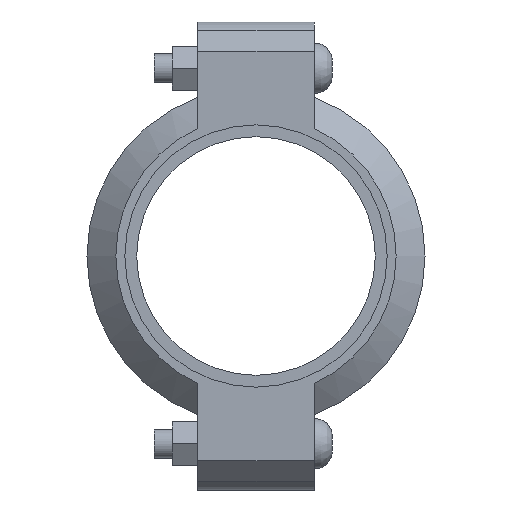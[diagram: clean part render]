
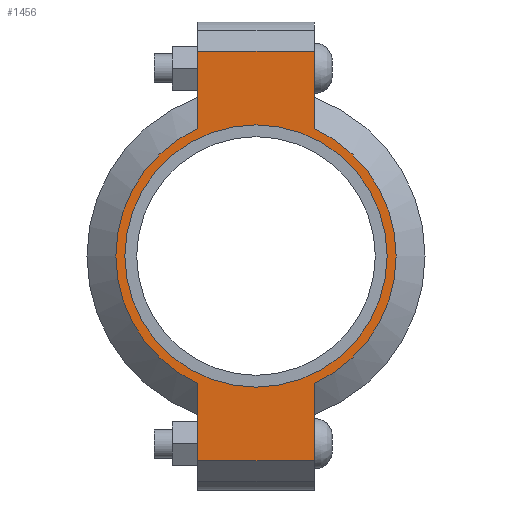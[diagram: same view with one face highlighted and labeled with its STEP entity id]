
A CAD part, left-side view. The second image highlights one B-rep face of the part: STEP entity #1456.
In plain terms, the highlighted planar face has unit normal (-1, 0, 0) as drawn and (0, 0, 1) by its records, which use the part's own axes.
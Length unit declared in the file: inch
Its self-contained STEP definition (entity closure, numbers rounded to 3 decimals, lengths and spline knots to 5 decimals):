
#136=LINE('',#2507,#227);
#144=LINE('',#2543,#235);
#151=LINE('',#2564,#242);
#160=LINE('',#2596,#251);
#161=LINE('',#2600,#252);
#162=LINE('',#2602,#253);
#227=VECTOR('',#2029,0.3937);
#235=VECTOR('',#2045,0.3937);
#242=VECTOR('',#2064,0.3937);
#251=VECTOR('',#2089,0.3937);
#252=VECTOR('',#2094,0.3937);
#253=VECTOR('',#2095,0.3937);
#305=FACE_BOUND('',#465,.T.);
#369=FACE_OUTER_BOUND('',#464,.T.);
#464=EDGE_LOOP('',(#1191,#1192,#1193,#1194,#1195,#1196,#1197,#1198));
#465=EDGE_LOOP('',(#1199));
#562=CIRCLE('',#1699,2.405);
#563=CIRCLE('',#1700,2.405);
#564=CIRCLE('',#1701,2.25);
#667=VERTEX_POINT('',#2504);
#668=VERTEX_POINT('',#2506);
#679=VERTEX_POINT('',#2538);
#680=VERTEX_POINT('',#2542);
#687=VERTEX_POINT('',#2561);
#688=VERTEX_POINT('',#2563);
#698=VERTEX_POINT('',#2599);
#699=VERTEX_POINT('',#2601);
#700=VERTEX_POINT('',#2604);
#831=EDGE_CURVE('',#668,#667,#136,.T.);
#845=EDGE_CURVE('',#680,#679,#144,.T.);
#855=EDGE_CURVE('',#688,#687,#151,.T.);
#870=EDGE_CURVE('',#680,#667,#160,.T.);
#871=EDGE_CURVE('',#679,#688,#562,.T.);
#872=EDGE_CURVE('',#698,#687,#161,.T.);
#873=EDGE_CURVE('',#698,#699,#162,.T.);
#874=EDGE_CURVE('',#699,#668,#563,.T.);
#875=EDGE_CURVE('',#700,#700,#564,.T.);
#1191=ORIENTED_EDGE('',*,*,#870,.F.);
#1192=ORIENTED_EDGE('',*,*,#845,.T.);
#1193=ORIENTED_EDGE('',*,*,#871,.T.);
#1194=ORIENTED_EDGE('',*,*,#855,.T.);
#1195=ORIENTED_EDGE('',*,*,#872,.F.);
#1196=ORIENTED_EDGE('',*,*,#873,.T.);
#1197=ORIENTED_EDGE('',*,*,#874,.T.);
#1198=ORIENTED_EDGE('',*,*,#831,.T.);
#1199=ORIENTED_EDGE('',*,*,#875,.T.);
#1310=PLANE('',#1698);
#1456=ADVANCED_FACE('',(#369,#305),#1310,.T.);
#1698=AXIS2_PLACEMENT_3D('',#2597,#2090,#2091);
#1699=AXIS2_PLACEMENT_3D('',#2598,#2092,#2093);
#1700=AXIS2_PLACEMENT_3D('',#2603,#2096,#2097);
#1701=AXIS2_PLACEMENT_3D('',#2605,#2098,#2099);
#2029=DIRECTION('',(-1.,0.,0.));
#2045=DIRECTION('',(1.,0.,0.));
#2064=DIRECTION('',(1.,0.,0.));
#2089=DIRECTION('',(0.,1.,0.));
#2090=DIRECTION('center_axis',(0.,0.,1.));
#2091=DIRECTION('ref_axis',(1.,0.,0.));
#2092=DIRECTION('center_axis',(0.,0.,1.));
#2093=DIRECTION('ref_axis',(-1.,0.,0.));
#2094=DIRECTION('',(0.,-1.,0.));
#2095=DIRECTION('',(-1.,0.,0.));
#2096=DIRECTION('center_axis',(0.,0.,1.));
#2097=DIRECTION('ref_axis',(-1.,0.,0.));
#2098=DIRECTION('center_axis',(0.,0.,-1.));
#2099=DIRECTION('ref_axis',(-1.,0.,0.));
#2504=CARTESIAN_POINT('',(-3.515,1.,1.065));
#2506=CARTESIAN_POINT('',(-2.18724,1.,1.065));
#2507=CARTESIAN_POINT('',(-4.015,1.,1.065));
#2538=CARTESIAN_POINT('',(-2.18724,-1.,1.065));
#2542=CARTESIAN_POINT('',(-3.515,-1.,1.065));
#2543=CARTESIAN_POINT('',(4.015,-1.,1.065));
#2561=CARTESIAN_POINT('',(3.515,-1.,1.065));
#2563=CARTESIAN_POINT('',(2.18724,-1.,1.065));
#2564=CARTESIAN_POINT('',(4.015,-1.,1.065));
#2596=CARTESIAN_POINT('',(-3.515,0.5,1.065));
#2597=CARTESIAN_POINT('Origin',(0.,0.,1.065));
#2598=CARTESIAN_POINT('Origin',(0.,0.,1.065));
#2599=CARTESIAN_POINT('',(3.515,1.,1.065));
#2600=CARTESIAN_POINT('',(3.515,-0.5,1.065));
#2601=CARTESIAN_POINT('',(2.18724,1.,1.065));
#2602=CARTESIAN_POINT('',(-4.015,1.,1.065));
#2603=CARTESIAN_POINT('Origin',(0.,0.,1.065));
#2604=CARTESIAN_POINT('',(2.25,0.,1.065));
#2605=CARTESIAN_POINT('Origin',(0.,0.,1.065));
